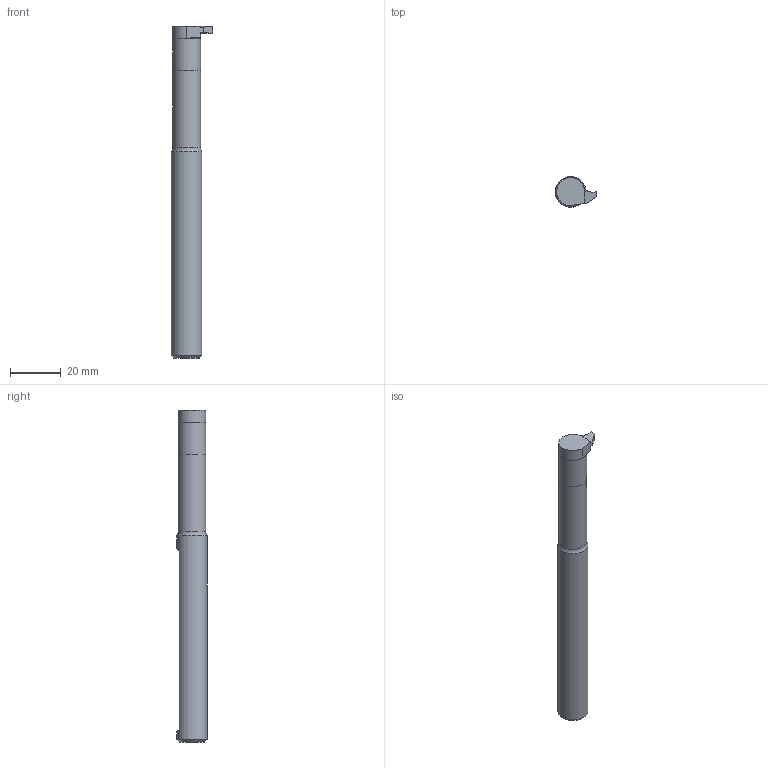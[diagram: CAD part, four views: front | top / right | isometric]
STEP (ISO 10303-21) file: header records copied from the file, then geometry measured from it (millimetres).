
FILE_DESCRIPTION(/* description */ (''),/* implementation_level */ '2;1');
FILE_NAME(/* name */ 'NFTIH16312C-HAAS.stp',/* time_stamp */ '2021-09-17T11:26:45+09:00',/* author */ (''),/* organization */ (''),/* preprocessor_version */ 'ST-DEVELOPER v16',/* originating_system */ 'SIEMENS PLM Software NX 10.0',/* authorisation */ '');
FILE_SCHEMA (('AUTOMOTIVE_DESIGN { 1 0 10303 214 3 1 1 1 }'));
Length unit declared in the file: millimetre
Products named in the file (1): model2
Bounding box: 16.2 x 12 x 130.53 mm (x, y, z)
Volume: 13510.9 mm3; surface area: 5354.3 mm2
Topology: 3 solids, 3 shells, 27 faces, 56 edges, 36 vertices
Faces by surface type: plane 20, cylinder 5, cone 1, torus 1
Full cylindrical faces by diameter (mm): 10.9 x2, 12 x1
Entity records: 718 total; most frequent: DIRECTION 124, CARTESIAN_POINT 113, ORIENTED_EDGE 100, EDGE_CURVE 50, AXIS2_PLACEMENT_3D 46, VERTEX_POINT 35, EDGE_LOOP 33, LINE 32
